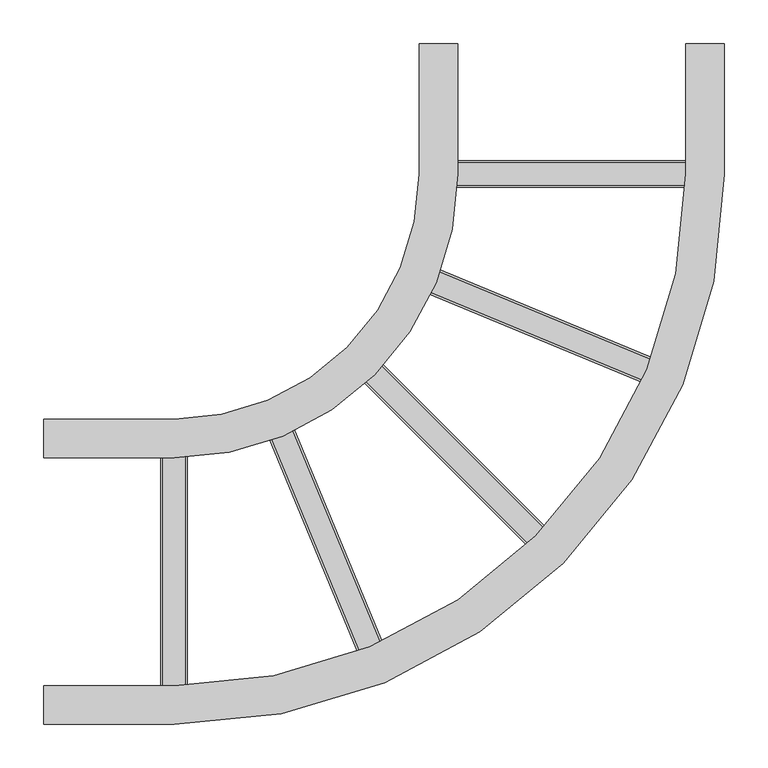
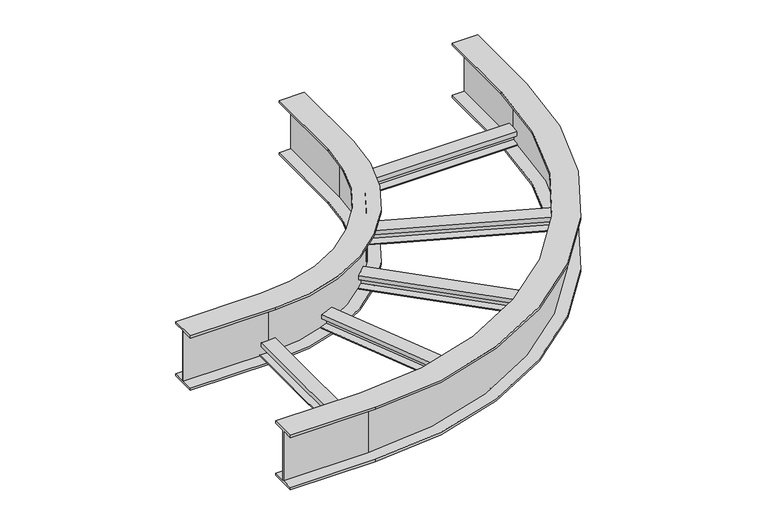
"""IFC4 building model written with IfcOpenShell, lengths in millimetres: cable carrier fitting geometry, CPI_Horizontal_Bend-Basortrav : Basortrav CPI-12."""

from ifc_helpers import new_model, si_unit, frame, origin, place, context, project, spatial, polyline, circle_curve, outline, extrude, source, transform, mapped, element, save
from ifc_brep_helpers import plane_surface, cylinder_surface, revolved_surface, advanced_brep


def cable_carrier_fitting_8666d8a0(model_context):
    return source(origin(), model_context, "Body", "SolidModel", [
        advanced_brep(
        [(-607.2, 175.5115599, 46.8), (-607.2, 154.4, 46.8), (-607.2, 154.4, -46.8), (-607.2, 175.5115599, -46.8), (-607.2, 175.5115599, -50.8), (-607.2, 131.0115599, -50.8), (-607.2, 131.0115599, -46.8), (-607.2, 152.4, -46.8), (-607.2, 152.4, 46.8), (-607.2, 131.0115599, 46.8), (-607.2, 131.0115599, 50.8), (-607.2, 175.5115599, 50.8), (-175.5115599, 607.2, 46.8), (-175.5115599, 607.2, 50.8), (-131.0115599, 607.2, 50.8), (-131.0115599, 607.2, 46.8), (-152.4, 607.2, 46.8), (-152.4, 607.2, -46.8), (-131.0115599, 607.2, -46.8), (-131.0115599, 607.2, -50.8), (-175.5115599, 607.2, -50.8), (-175.5115599, 607.2, -46.8), (-154.4, 607.2, -46.8), (-154.4, 607.2, 46.8), (-457.2, 175.5115599, 46.8), (-175.5115599, 457.2, 46.8), (-154.4, 457.2, 46.8), (-457.2, 154.4, 46.8), (-457.2, 154.4, -46.8), (-154.4, 457.2, -46.8), (-175.5115599, 457.2, -46.8), (-457.2, 175.5115599, -46.8), (-457.2, 175.5115599, -50.8), (-175.5115599, 457.2, -50.8), (-131.0115599, 457.2, -50.8), (-457.2, 131.0115599, -50.8), (-457.2, 131.0115599, -46.8), (-131.0115599, 457.2, -46.8), (-152.4, 457.2, -46.8), (-457.2, 152.4, -46.8), (-457.2, 152.4, 46.8), (-152.4, 457.2, 46.8), (-131.0115599, 457.2, 46.8), (-457.2, 131.0115599, 46.8), (-457.2, 131.0115599, 50.8), (-131.0115599, 457.2, 50.8), (-175.5115599, 457.2, 50.8), (-457.2, 175.5115599, 50.8)],
        [
            (0, 1),
            (1, 2),
            (2, 3),
            (3, 4),
            (4, 5),
            (5, 6),
            (6, 7),
            (7, 8),
            (8, 9),
            (9, 10),
            (10, 11),
            (11, 0),
            (12, 13),
            (13, 14),
            (14, 15),
            (15, 16),
            (16, 17),
            (17, 18),
            (18, 19),
            (19, 20),
            (20, 21),
            (21, 22),
            (22, 23),
            (23, 12),
            (0, 24),
            (24, 25, circle_curve(frame((-457.2, 457.2, 46.8), z_axis=(0.0, 0.0, 1.0), x_axis=(0.0, -1.0, 0.0)), 281.6884401)),
            (25, 12),
            (23, 26),
            (26, 27, circle_curve(frame((-457.2, 457.2, 46.8), z_axis=(0.0, 0.0, -1.0), x_axis=(0.0, -1.0, 0.0)), 302.8)),
            (27, 1),
            (27, 28),
            (28, 2),
            (28, 29, circle_curve(frame((-457.2, 457.2, -46.8), z_axis=(0.0, 0.0, 1.0), x_axis=(0.0, -1.0, 0.0)), 302.8)),
            (29, 22),
            (21, 30),
            (30, 31, circle_curve(frame((-457.2, 457.2, -46.8), z_axis=(0.0, 0.0, -1.0), x_axis=(0.0, -1.0, 0.0)), 281.6884401)),
            (31, 3),
            (31, 32),
            (32, 4),
            (32, 33, circle_curve(frame((-457.2, 457.2, -50.8), z_axis=(0.0, 0.0, 1.0), x_axis=(0.0, -1.0, 0.0)), 281.6884401)),
            (33, 20),
            (19, 34),
            (34, 35, circle_curve(frame((-457.2, 457.2, -50.8), z_axis=(0.0, 0.0, -1.0), x_axis=(0.0, -1.0, 0.0)), 326.1884401)),
            (35, 5),
            (35, 36),
            (36, 6),
            (36, 37, circle_curve(frame((-457.2, 457.2, -46.8), z_axis=(0.0, 0.0, 1.0), x_axis=(0.0, -1.0, 0.0)), 326.1884401)),
            (37, 18),
            (17, 38),
            (38, 39, circle_curve(frame((-457.2, 457.2, -46.8), z_axis=(0.0, 0.0, -1.0), x_axis=(0.0, -1.0, 0.0)), 304.8)),
            (39, 7),
            (39, 40),
            (40, 8),
            (40, 41, circle_curve(frame((-457.2, 457.2, 46.8), z_axis=(0.0, 0.0, 1.0), x_axis=(0.0, -1.0, 0.0)), 304.8)),
            (41, 16),
            (15, 42),
            (42, 43, circle_curve(frame((-457.2, 457.2, 46.8), z_axis=(0.0, 0.0, -1.0), x_axis=(0.0, -1.0, 0.0)), 326.1884401)),
            (43, 9),
            (43, 44),
            (44, 10),
            (44, 45, circle_curve(frame((-457.2, 457.2, 50.8), z_axis=(0.0, 0.0, 1.0), x_axis=(0.0, -1.0, 0.0)), 326.1884401)),
            (45, 14),
            (13, 46),
            (46, 47, circle_curve(frame((-457.2, 457.2, 50.8), z_axis=(0.0, 0.0, -1.0), x_axis=(0.0, -1.0, 0.0)), 281.6884401)),
            (47, 11),
            (47, 24),
            (26, 29),
            (30, 33),
            (34, 37),
            (38, 41),
            (42, 45),
            (46, 25),
        ],
        [
            plane_surface(frame((-607.2, 0.0, 0.0), z_axis=(-1.0, 0.0, 0.0), x_axis=(0.0, 0.0, 1.0))),
            plane_surface(frame((0.0, 607.2, 0.0), z_axis=(0.0, 1.0, 0.0), x_axis=(0.0, 0.0, 1.0))),
            plane_surface(frame((-607.2, 175.5115599, 46.8), z_axis=(0.0, 0.0, -1.0), x_axis=(1.0, 0.0, 0.0))),
            plane_surface(frame((-607.2, 154.4, 46.8), z_axis=(0.0, 1.0, 0.0), x_axis=(1.0, 0.0, 0.0))),
            plane_surface(frame((-607.2, 154.4, -46.8), z_axis=(0.0, 0.0, 1.0), x_axis=(1.0, 0.0, 0.0))),
            plane_surface(frame((-607.2, 175.5115599, -46.8), z_axis=(0.0, 1.0, 0.0), x_axis=(1.0, 0.0, 0.0))),
            plane_surface(frame((-607.2, 175.5115599, -50.8), z_axis=(0.0, 0.0, -1.0), x_axis=(1.0, 0.0, 0.0))),
            plane_surface(frame((-607.2, 131.0115599, -50.8), z_axis=(0.0, -1.0, 0.0), x_axis=(1.0, 0.0, 0.0))),
            plane_surface(frame((-607.2, 131.0115599, -46.8), z_axis=(0.0, 0.0, 1.0), x_axis=(1.0, 0.0, 0.0))),
            plane_surface(frame((-607.2, 152.4, -46.8), z_axis=(0.0, -1.0, 0.0), x_axis=(1.0, 0.0, 0.0))),
            plane_surface(frame((-607.2, 152.4, 46.8), z_axis=(0.0, 0.0, -1.0), x_axis=(1.0, 0.0, 0.0))),
            plane_surface(frame((-607.2, 131.0115599, 46.8), z_axis=(0.0, -1.0, 0.0), x_axis=(1.0, 0.0, 0.0))),
            plane_surface(frame((-607.2, 131.0115599, 50.8), z_axis=(0.0, 0.0, 1.0), x_axis=(1.0, 0.0, 0.0))),
            plane_surface(frame((-607.2, 175.5115599, 50.8), z_axis=(0.0, 1.0, 0.0), x_axis=(1.0, 0.0, 0.0))),
            revolved_surface(polyline([(-457.2, 154.39999999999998, 46.8), (-457.2, 154.39999999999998, -46.8)]), (-457.2, 457.2, 0.0), (0.0, 0.0, 1.0)),
            revolved_surface(polyline([(-457.2, 175.5115599, -46.8), (-457.2, 175.5115599, -50.8)]), (-457.2, 457.2, 0.0), (0.0, 0.0, 1.0)),
            cylinder_surface(frame((-457.2, 457.2, 0.0), z_axis=(0.0, 0.0, 1.0), x_axis=(0.0, -1.0, 0.0)), 326.1884401),
            cylinder_surface(frame((-457.2, 457.2, 0.0), z_axis=(0.0, 0.0, 1.0), x_axis=(0.0, -1.0, 0.0)), 304.8),
            revolved_surface(polyline([(-457.2, 175.5115599, 50.8), (-457.2, 175.5115599, 46.8)]), (-457.2, 457.2, 0.0), (0.0, 0.0, 1.0)),
            plane_surface(frame((-154.4, 457.2, 46.8), z_axis=(-1.0, 0.0, 0.0), x_axis=(0.0, 1.0, 0.0))),
            plane_surface(frame((-175.5115599, 457.2, -46.8), z_axis=(-1.0, 0.0, 0.0), x_axis=(0.0, 1.0, 0.0))),
            plane_surface(frame((-131.0115599, 457.2, -50.8), z_axis=(1.0, 0.0, 0.0), x_axis=(0.0, 1.0, 0.0))),
            plane_surface(frame((-152.4, 457.2, -46.8), z_axis=(1.0, 0.0, 0.0), x_axis=(0.0, 1.0, 0.0))),
            plane_surface(frame((-131.0115599, 457.2, 46.8), z_axis=(1.0, 0.0, 0.0), x_axis=(0.0, 1.0, 0.0))),
            plane_surface(frame((-175.5115599, 457.2, 50.8), z_axis=(-1.0, 0.0, 0.0), x_axis=(0.0, 1.0, 0.0))),
        ],
        [
            (0, [[1, 2, 3, 4, 5, 6, 7, 8, 9, 10, 11, 12]]),
            (1, [[13, 14, 15, 16, 17, 18, 19, 20, 21, 22, 23, 24]]),
            (2, [[-1, 25, 26, 27, -24, 28, 29, 30]]),
            (3, [[-2, -30, 31, 32]]),
            (4, [[-3, -32, 33, 34, -22, 35, 36, 37]]),
            (5, [[-4, -37, 38, 39]]),
            (6, [[-5, -39, 40, 41, -20, 42, 43, 44]]),
            (7, [[-6, -44, 45, 46]]),
            (8, [[-7, -46, 47, 48, -18, 49, 50, 51]]),
            (9, [[-8, -51, 52, 53]]),
            (10, [[-9, -53, 54, 55, -16, 56, 57, 58]]),
            (11, [[-10, -58, 59, 60]]),
            (12, [[-11, -60, 61, 62, -14, 63, 64, 65]]),
            (13, [[-12, -65, 66, -25]]),
            (14, [[-33, -31, -29, 67]]),
            (15, [[-40, -38, -36, 68]]),
            (16, [[-47, -45, -43, 69]]),
            (17, [[-54, -52, -50, 70]]),
            (16, [[-61, -59, -57, 71]]),
            (18, [[-26, -66, -64, 72]]),
            (19, [[-67, -28, -23, -34]]),
            (20, [[-68, -35, -21, -41]]),
            (21, [[-69, -42, -19, -48]]),
            (22, [[-70, -49, -17, -55]]),
            (23, [[-71, -56, -15, -62]]),
            (24, [[-72, -63, -13, -27]]),
        ],
    ),
        extrude(outline(polyline([(-44.98125, -15.21), (-46.83125, -15.21), (-46.83125, 15.21), (-44.98125, 15.21), (-44.98125, 0.925), (-24.68125, 0.925), (-24.68125, 10.8500001), (-30.68125, 10.8500001), (-30.68125, 12.7), (-22.83125, 12.7), (-22.83125, -12.6999999), (-30.68125, -12.6999999), (-30.68125, -10.85), (-24.68125, -10.85), (-24.68125, -0.9249999), (-44.98125, -0.9249999), (-44.98125, -15.21)])), frame((105.996963, 223.9161796, 0.0), z_axis=(-0.9238795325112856, 0.3826834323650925, 0.0), x_axis=(0.0, 0.0, 1.0)), (0.0, 0.0, 1.0), 304.8),
        extrude(outline(polyline([(-44.98125, -15.21), (-46.83125, -15.21), (-46.83125, 15.21), (-44.98125, 15.21), (-44.98125, 0.9249999), (-24.68125, 0.9249999), (-24.68125, 10.85), (-30.68125, 10.85), (-30.68125, 12.6999999), (-22.83125, 12.6999999), (-22.83125, -12.7), (-30.68125, -12.7), (-30.68125, -10.8500001), (-24.68125, -10.8500001), (-24.68125, -0.925), (-44.98125, -0.925), (-44.98125, -15.21)])), frame((-223.9161796, -105.996963, 0.0), z_axis=(-0.38268343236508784, 0.9238795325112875, 0.0), x_axis=(0.0, 0.0, 1.0)), (0.0, 0.0, 1.0), 304.8),
        extrude(outline(polyline([(441.99, -44.98125), (456.275, -44.98125), (456.275, -24.68125), (446.35, -24.68125), (446.35, -30.68125), (444.5, -30.68125), (444.5, -22.83125), (469.9, -22.83125), (469.9, -30.68125), (468.05, -30.68125), (468.05, -24.68125), (458.125, -24.68125), (458.125, -44.98125), (472.41, -44.98125), (472.41, -46.83125), (441.99, -46.83125), (441.99, -44.98125)])), frame((-152.4, 0.0, 0.0), z_axis=(1.0, 0.0, 0.0), x_axis=(0.0, 1.0, 0.0)), (0.0, 0.0, 1.0), 304.8),
        extrude(outline(polyline([(-44.98125, -472.41), (-46.83125, -472.41), (-46.83125, -441.99), (-44.98125, -441.99), (-44.98125, -456.275), (-24.68125, -456.275), (-24.68125, -446.35), (-30.68125, -446.35), (-30.68125, -444.5), (-22.83125, -444.5), (-22.83125, -469.9), (-30.68125, -469.9), (-30.68125, -468.05), (-24.68125, -468.05), (-24.68125, -458.125), (-44.98125, -458.125), (-44.98125, -472.41)])), frame((0.0, -152.4, 0.0), z_axis=(0.0, 1.0, 0.0), x_axis=(0.0, 0.0, 1.0)), (0.0, 0.0, 1.0), 304.8),
        extrude(outline(polyline([(-44.98125, -15.21), (-46.83125, -15.21), (-46.83125, 15.21), (-44.98125, 15.21), (-44.98125, 0.925), (-24.68125, 0.925), (-24.68125, 10.85), (-30.68125, 10.85), (-30.68125, 12.7), (-22.83125, 12.7), (-22.83125, -12.7), (-30.68125, -12.7), (-30.68125, -10.85), (-24.68125, -10.85), (-24.68125, -0.925), (-44.98125, -0.925), (-44.98125, -15.21)])), frame((-26.1477062, 26.1477062, 0.0), z_axis=(-0.7071067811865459, 0.7071067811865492, 0.0), x_axis=(0.0, 0.0, 1.0)), (0.0, 0.0, 1.0), 304.8),
        advanced_brep(
        [(-607.2, -175.5115599, 46.8), (-607.2, -175.5115599, 50.8), (-607.2, -131.0115599, 50.8), (-607.2, -131.0115599, 46.8), (-607.2, -152.4, 46.8), (-607.2, -152.4, -46.8), (-607.2, -131.0115599, -46.8), (-607.2, -131.0115599, -50.8), (-607.2, -175.5115599, -50.8), (-607.2, -175.5115599, -46.8), (-607.2, -154.4, -46.8), (-607.2, -154.4, 46.8), (175.5115599, 607.2, 46.8), (154.4, 607.2, 46.8), (154.4, 607.2, -46.8), (175.5115599, 607.2, -46.8), (175.5115599, 607.2, -50.8), (131.0115599, 607.2, -50.8), (131.0115599, 607.2, -46.8), (152.4, 607.2, -46.8), (152.4, 607.2, 46.8), (131.0115599, 607.2, 46.8), (131.0115599, 607.2, 50.8), (175.5115599, 607.2, 50.8), (-457.2, -175.5115599, 46.8), (-457.2, -175.5115599, 50.8), (175.5115599, 457.2, 50.8), (131.0115599, 457.2, 50.8), (-457.2, -131.0115599, 50.8), (-457.2, -131.0115599, 46.8), (131.0115599, 457.2, 46.8), (152.4, 457.2, 46.8), (-457.2, -152.4, 46.8), (-457.2, -152.4, -46.8), (152.4, 457.2, -46.8), (131.0115599, 457.2, -46.8), (-457.2, -131.0115599, -46.8), (-457.2, -131.0115599, -50.8), (131.0115599, 457.2, -50.8), (175.5115599, 457.2, -50.8), (-457.2, -175.5115599, -50.8), (-457.2, -175.5115599, -46.8), (175.5115599, 457.2, -46.8), (154.4, 457.2, -46.8), (-457.2, -154.4, -46.8), (-457.2, -154.4, 46.8), (154.4, 457.2, 46.8), (175.5115599, 457.2, 46.8)],
        [
            (0, 1),
            (1, 2),
            (2, 3),
            (3, 4),
            (4, 5),
            (5, 6),
            (6, 7),
            (7, 8),
            (8, 9),
            (9, 10),
            (10, 11),
            (11, 0),
            (12, 13),
            (13, 14),
            (14, 15),
            (15, 16),
            (16, 17),
            (17, 18),
            (18, 19),
            (19, 20),
            (20, 21),
            (21, 22),
            (22, 23),
            (23, 12),
            (0, 24),
            (24, 25),
            (25, 1),
            (25, 26, circle_curve(frame((-457.2, 457.2, 50.8), z_axis=(0.0, 0.0, 1.0), x_axis=(0.0, -1.0, 0.0)), 632.7115599)),
            (26, 23),
            (22, 27),
            (27, 28, circle_curve(frame((-457.2, 457.2, 50.8), z_axis=(0.0, 0.0, -1.0), x_axis=(0.0, -1.0, 0.0)), 588.2115599)),
            (28, 2),
            (28, 29),
            (29, 3),
            (29, 30, circle_curve(frame((-457.2, 457.2, 46.8), z_axis=(0.0, 0.0, 1.0), x_axis=(0.0, -1.0, 0.0)), 588.2115599)),
            (30, 21),
            (20, 31),
            (31, 32, circle_curve(frame((-457.2, 457.2, 46.8), z_axis=(0.0, 0.0, -1.0), x_axis=(0.0, -1.0, 0.0)), 609.6)),
            (32, 4),
            (32, 33),
            (33, 5),
            (33, 34, circle_curve(frame((-457.2, 457.2, -46.8), z_axis=(0.0, 0.0, 1.0), x_axis=(0.0, -1.0, 0.0)), 609.6)),
            (34, 19),
            (18, 35),
            (35, 36, circle_curve(frame((-457.2, 457.2, -46.8), z_axis=(0.0, 0.0, -1.0), x_axis=(0.0, -1.0, 0.0)), 588.2115599)),
            (36, 6),
            (36, 37),
            (37, 7),
            (37, 38, circle_curve(frame((-457.2, 457.2, -50.8), z_axis=(0.0, 0.0, 1.0), x_axis=(0.0, -1.0, 0.0)), 588.2115599)),
            (38, 17),
            (16, 39),
            (39, 40, circle_curve(frame((-457.2, 457.2, -50.8), z_axis=(0.0, 0.0, -1.0), x_axis=(0.0, -1.0, 0.0)), 632.7115599)),
            (40, 8),
            (40, 41),
            (41, 9),
            (41, 42, circle_curve(frame((-457.2, 457.2, -46.8), z_axis=(0.0, 0.0, 1.0), x_axis=(0.0, -1.0, 0.0)), 632.7115599)),
            (42, 15),
            (14, 43),
            (43, 44, circle_curve(frame((-457.2, 457.2, -46.8), z_axis=(0.0, 0.0, -1.0), x_axis=(0.0, -1.0, 0.0)), 611.6)),
            (44, 10),
            (44, 45),
            (45, 11),
            (45, 46, circle_curve(frame((-457.2, 457.2, 46.8), z_axis=(0.0, 0.0, 1.0), x_axis=(0.0, -1.0, 0.0)), 611.6)),
            (46, 13),
            (12, 47),
            (47, 24, circle_curve(frame((-457.2, 457.2, 46.8), z_axis=(0.0, 0.0, -1.0), x_axis=(0.0, -1.0, 0.0)), 632.7115599)),
            (47, 26),
            (27, 30),
            (31, 34),
            (35, 38),
            (39, 42),
            (43, 46),
        ],
        [
            plane_surface(frame((-607.2, 0.0, 0.0), z_axis=(-1.0, 0.0, 0.0), x_axis=(0.0, 0.0, 1.0))),
            plane_surface(frame((0.0, 607.2, 0.0), z_axis=(0.0, 1.0, 0.0), x_axis=(0.0, 0.0, 1.0))),
            plane_surface(frame((-607.2, -175.5115599, 46.8), z_axis=(0.0, -1.0, 0.0), x_axis=(1.0, 0.0, 0.0))),
            plane_surface(frame((-607.2, -175.5115599, 50.8), z_axis=(0.0, 0.0, 1.0), x_axis=(1.0, 0.0, 0.0))),
            plane_surface(frame((-607.2, -131.0115599, 50.8), z_axis=(0.0, 1.0, 0.0), x_axis=(1.0, 0.0, 0.0))),
            plane_surface(frame((-607.2, -131.0115599, 46.8), z_axis=(0.0, 0.0, -1.0), x_axis=(1.0, 0.0, 0.0))),
            plane_surface(frame((-607.2, -152.4, 46.8), z_axis=(0.0, 1.0, 0.0), x_axis=(1.0, 0.0, 0.0))),
            plane_surface(frame((-607.2, -152.4, -46.8), z_axis=(0.0, 0.0, 1.0), x_axis=(1.0, 0.0, 0.0))),
            plane_surface(frame((-607.2, -131.0115599, -46.8), z_axis=(0.0, 1.0, 0.0), x_axis=(1.0, 0.0, 0.0))),
            plane_surface(frame((-607.2, -131.0115599, -50.8), z_axis=(0.0, 0.0, -1.0), x_axis=(1.0, 0.0, 0.0))),
            plane_surface(frame((-607.2, -175.5115599, -50.8), z_axis=(0.0, -1.0, 0.0), x_axis=(1.0, 0.0, 0.0))),
            plane_surface(frame((-607.2, -175.5115599, -46.8), z_axis=(0.0, 0.0, 1.0), x_axis=(1.0, 0.0, 0.0))),
            plane_surface(frame((-607.2, -154.4, -46.8), z_axis=(0.0, -1.0, 0.0), x_axis=(1.0, 0.0, 0.0))),
            plane_surface(frame((-607.2, -154.4, 46.8), z_axis=(0.0, 0.0, -1.0), x_axis=(1.0, 0.0, 0.0))),
            cylinder_surface(frame((-457.2, 457.2, 0.0), z_axis=(0.0, 0.0, 1.0), x_axis=(0.0, -1.0, 0.0)), 632.7115599),
            revolved_surface(polyline([(-457.2, -131.0115599, 50.8), (-457.2, -131.0115599, 46.8)]), (-457.2, 457.2, 0.0), (0.0, 0.0, 1.0)),
            revolved_surface(polyline([(-457.2, -152.40000000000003, 46.8), (-457.2, -152.40000000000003, -46.8)]), (-457.2, 457.2, 0.0), (0.0, 0.0, 1.0)),
            revolved_surface(polyline([(-457.2, -131.0115599, -46.8), (-457.2, -131.0115599, -50.8)]), (-457.2, 457.2, 0.0), (0.0, 0.0, 1.0)),
            cylinder_surface(frame((-457.2, 457.2, 0.0), z_axis=(0.0, 0.0, 1.0), x_axis=(0.0, -1.0, 0.0)), 611.6),
            plane_surface(frame((175.5115599, 457.2, 46.8), z_axis=(1.0, 0.0, 0.0), x_axis=(0.0, 1.0, 0.0))),
            plane_surface(frame((131.0115599, 457.2, 50.8), z_axis=(-1.0, 0.0, 0.0), x_axis=(0.0, 1.0, 0.0))),
            plane_surface(frame((152.4, 457.2, 46.8), z_axis=(-1.0, 0.0, 0.0), x_axis=(0.0, 1.0, 0.0))),
            plane_surface(frame((131.0115599, 457.2, -46.8), z_axis=(-1.0, 0.0, 0.0), x_axis=(0.0, 1.0, 0.0))),
            plane_surface(frame((175.5115599, 457.2, -50.8), z_axis=(1.0, 0.0, 0.0), x_axis=(0.0, 1.0, 0.0))),
            plane_surface(frame((154.4, 457.2, -46.8), z_axis=(1.0, 0.0, 0.0), x_axis=(0.0, 1.0, 0.0))),
        ],
        [
            (0, [[1, 2, 3, 4, 5, 6, 7, 8, 9, 10, 11, 12]]),
            (1, [[13, 14, 15, 16, 17, 18, 19, 20, 21, 22, 23, 24]]),
            (2, [[-1, 25, 26, 27]]),
            (3, [[-2, -27, 28, 29, -23, 30, 31, 32]]),
            (4, [[-3, -32, 33, 34]]),
            (5, [[-4, -34, 35, 36, -21, 37, 38, 39]]),
            (6, [[-5, -39, 40, 41]]),
            (7, [[-6, -41, 42, 43, -19, 44, 45, 46]]),
            (8, [[-7, -46, 47, 48]]),
            (9, [[-8, -48, 49, 50, -17, 51, 52, 53]]),
            (10, [[-9, -53, 54, 55]]),
            (11, [[-10, -55, 56, 57, -15, 58, 59, 60]]),
            (12, [[-11, -60, 61, 62]]),
            (13, [[-12, -62, 63, 64, -13, 65, 66, -25]]),
            (14, [[-28, -26, -66, 67]]),
            (15, [[-35, -33, -31, 68]]),
            (16, [[-42, -40, -38, 69]]),
            (17, [[-49, -47, -45, 70]]),
            (14, [[-56, -54, -52, 71]]),
            (18, [[-63, -61, -59, 72]]),
            (19, [[-67, -65, -24, -29]]),
            (20, [[-68, -30, -22, -36]]),
            (21, [[-69, -37, -20, -43]]),
            (22, [[-70, -44, -18, -50]]),
            (23, [[-71, -51, -16, -57]]),
            (24, [[-72, -58, -14, -64]]),
        ],
    ),
    ])


if __name__ == "__main__":
    model = new_model("IFC4")
    model_context = context("Model", 3, world=origin())
    ifc_project = project(units=[si_unit("LENGTHUNIT", "METRE", prefix="MILLI")], contexts=[model_context])
    site = spatial("IfcSite", under=ifc_project)
    building = spatial("IfcBuilding", under=site)
    placement = place(None, origin())
    cable_carrier_fitting_shape = cable_carrier_fitting_8666d8a0(model_context)
    element("IfcCableCarrierFitting", 1, ObjectType="CPI_Horizontal_Bend-Basortrav : Basortrav CPI-12", at=placement, inside=building, context=model_context, shape_type="MappedRepresentation", body=[
        mapped(cable_carrier_fitting_shape, transform((0.0, 0.0, 0.0), x_axis=(1.0, 0.0, 0.0), y_axis=(0.0, 1.0, 0.0), z_axis=(0.0, 0.0, 1.0))),
    ])
    save(model, "model.ifc")
